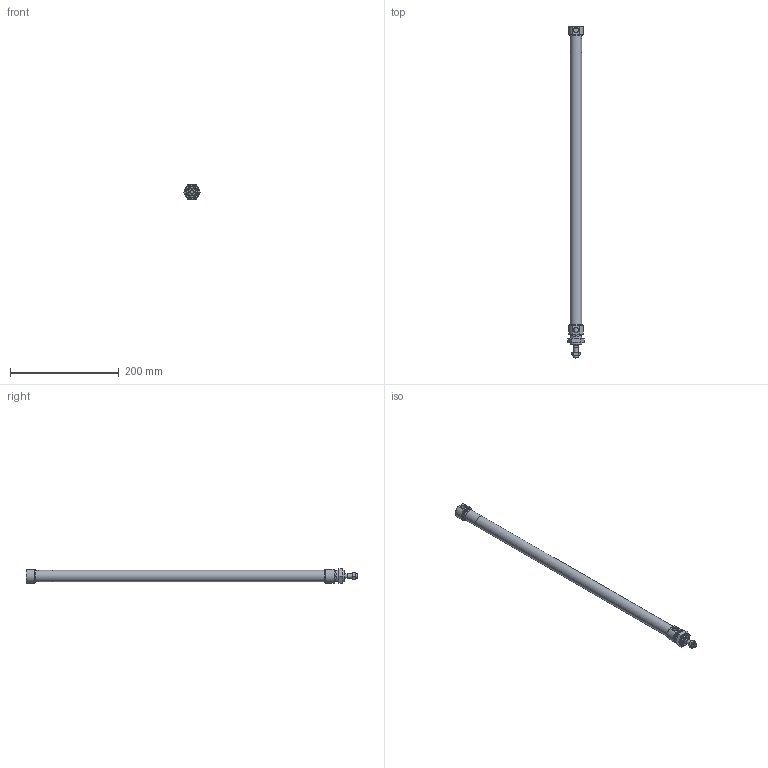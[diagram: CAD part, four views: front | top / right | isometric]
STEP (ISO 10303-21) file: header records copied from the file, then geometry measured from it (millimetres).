
FILE_DESCRIPTION(/* description */ ('Unknown'),/* implementation_level */ '2;1');
FILE_NAME(/* name */ 'RIMR 20_500',/* time_stamp */ '2024-08-30T08:20:03+02:00',/* author */ ('Unknown'),/* organization */ ('Unknown'),/* preprocessor_version */ 'ST-DEVELOPER v16.7',/* originating_system */ 'Solid Edge',/* authorisation */ 'Unknown');
FILE_SCHEMA (('AUTOMOTIVE_DESIGN {1 0 10303 214 3 1 1}'));
Length unit declared in the file: millimetre
Products named in the file (7): RIMR 20_500; Profilrohr; Kolbenstange; Kit_1; Kit_2; Mutter_1; Mutter_2
Assembly tree (6 placements, depth 2):
  RIMR 20_500
    Profilrohr
    Kolbenstange
    Kit_1
    Kit_2
    Mutter_1
    Mutter_2
Bounding box: 31.18 x 611 x 27 mm (x, y, z)
Volume: 87710.4 mm3; surface area: 96158.2 mm2
Topology: 6 solids, 7 shells, 123 faces, 242 edges, 150 vertices
Faces by surface type: plane 49, cone 39, cylinder 28, torus 7
Full cylindrical faces by diameter (mm): 1.7 x1, 6.647 x1, 8 x2, 8.5 x1, 8.56 x1, 8.566 x2, 9.1 x1, 12 x1, 12.1 x1, 14.1 x1, 14.2 x1, 17.9 x1, 19.7 x1, 20 x3, 20.376 x1, 21.27 x1, 22 x2, 22.2 x2
Entity records: 3736 total; most frequent: CARTESIAN_POINT 564, DIRECTION 492, ORIENTED_EDGE 350, AXIS2_PLACEMENT_3D 230, FACE_BOUND 202, EDGE_LOOP 201, EDGE_CURVE 175, VERTEX_POINT 139
